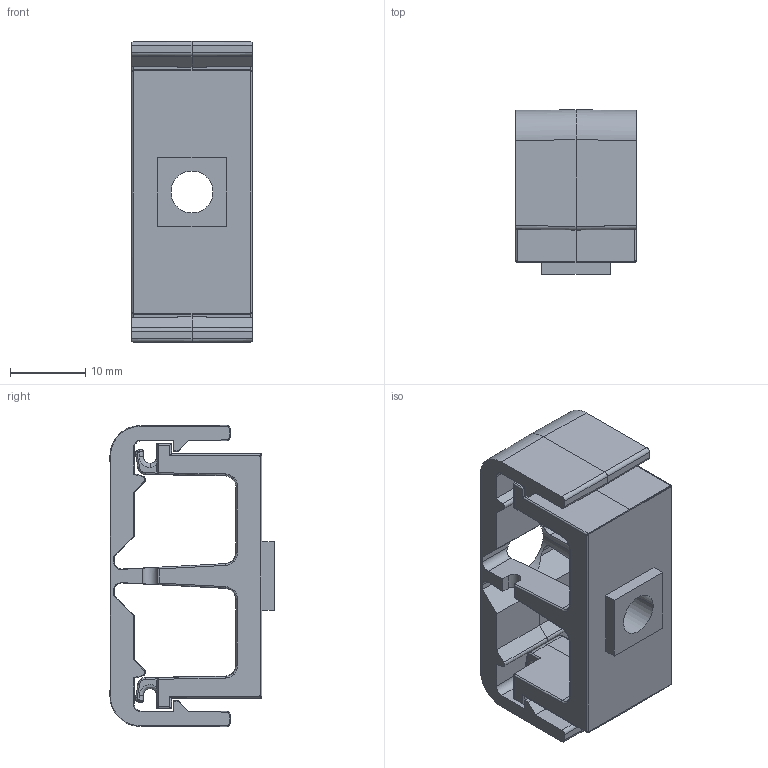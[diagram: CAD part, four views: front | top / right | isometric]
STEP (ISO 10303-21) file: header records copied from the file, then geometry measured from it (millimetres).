
FILE_DESCRIPTION (( 'STEP AP203' ), '1' );
FILE_NAME ('28414_KABSCH8.STEP', '2018-05-17T08:45:19', ( '' ), ( '' ), 'SwSTEP 2.0', 'SolidWorks 2017', '' );
FILE_SCHEMA (( 'CONFIG_CONTROL_DESIGN' ));
Length unit declared in the file: millimetre
Products named in the file (1): 28414_KABSCH8
Bounding box: 16 x 21.82 x 40.05 mm (x, y, z)
Volume: 5713.9 mm3; surface area: 5310.2 mm2
Topology: 1 solids, 1 shells, 295 faces, 747 edges, 453 vertices
Faces by surface type: plane 125, cylinder 114, bspline 46, cone 10
Entity records: 9414 total; most frequent: CARTESIAN_POINT 2967, ORIENTED_EDGE 1494, DIRECTION 1116, EDGE_CURVE 747, VERTEX_POINT 453, VECTOR 430, LINE 430, AXIS2_PLACEMENT_3D 343
